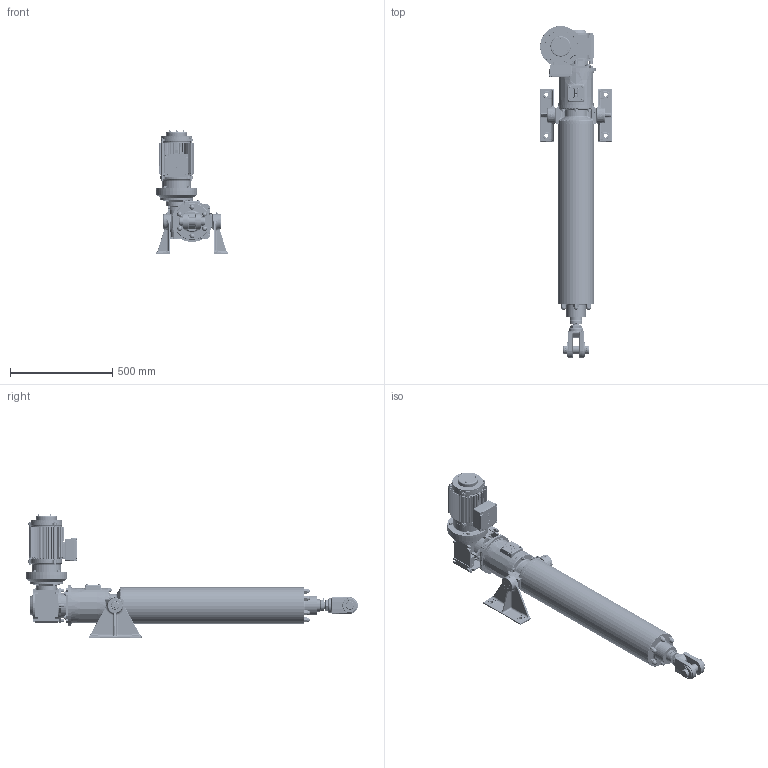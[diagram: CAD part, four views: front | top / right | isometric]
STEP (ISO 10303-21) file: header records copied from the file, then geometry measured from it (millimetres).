
FILE_DESCRIPTION( ( '153-599-4' ), '1' );
FILE_NAME( 'C:/daten/bearbeitung katalogbilder/RBs rendern/austausch pomplun/mit identnr/T1T7-0600-160-224-1.stp', 'Unknown', ( 'Christoph Hahmann' ), ( 'RACO-ELEKTRO-MASCHINEN GmbH' ), 'PSStep 17.0.49', 'Solid Edge ST 7', ' ' );
FILE_SCHEMA( ( 'AUTOMOTIVE_DESIGN { 1 0 10303 214 1 1 1 1 }' ) );
Length unit declared in the file: millimetre
Products named in the file (13): Assem1; 03.01-07 kpl; 02.14-07-0600; 01.15-07-0600; 02.01-07 kpl; 01.74-07; 01.01-07-gabelkkopf 133-277-52; 04.01-05-7-163; 10.02-04-08 105-983-12; 03.65-07-2Füße; Flansch Ø200 SKSI75; BGR 6-7; 1
Assembly tree (12 placements, depth 2):
  Assem1
    03.01-07 kpl
    02.14-07-0600
    01.15-07-0600
    02.01-07 kpl
    01.74-07
    01.01-07-gabelkkopf 133-277-52
    04.01-05-7-163
    10.02-04-08 105-983-12
    03.65-07-2Füße
    Flansch Ø200 SKSI75
    BGR 6-7
    1
Bounding box: 350 x 1620 x 608 mm (x, y, z)
Surface area: 2795179.9 mm2 (no closed solid volume)
Topology: 0 solids, 7673 shells, 7673 faces, 39277 edges, 38170 vertices
Faces by surface type: plane 3776, cylinder 1778, bspline 718, cone 565, torus 374, sphere 283, extrusion 173, revolution 6
Full cylindrical faces by diameter (mm): 1.6 x2, 2 x1, 2.459 x12, 3 x4, 3.242 x16, 4 x3, 4.02 x4, 4.134 x19, 4.5 x2, 4.773 x6, 4.917 x7, 5 x12, 5.3 x3, 5.4 x4, 5.5 x8, 5.7 x7, 6 x18, 6.4 x2, 6.647 x3, 7 x11, 7.33 x1, 7.5 x3, 8 x7, 8.15 x1, 8.16 x8, 8.2 x1, 8.376 x10, 8.4 x2, 8.566 x1, 8.9 x4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
Entity records: 559902 total; most frequent: CARTESIAN_POINT 214810, DIRECTION 60491, VERTEX_POINT 37761, ORIENTED_EDGE 37684, EDGE_CURVE 37684, AXIS2_PLACEMENT_3D 21060, VECTOR 18365, LINE 18192
